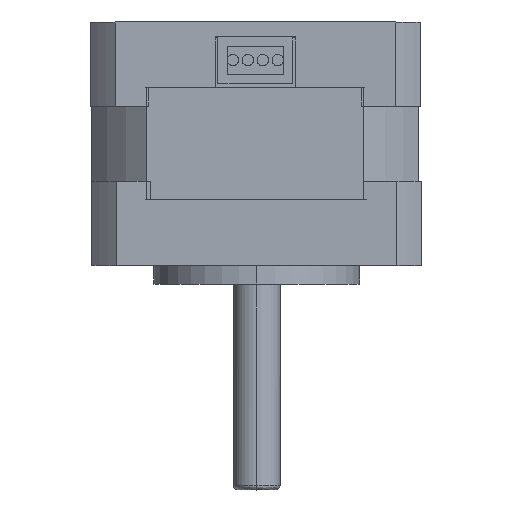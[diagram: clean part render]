
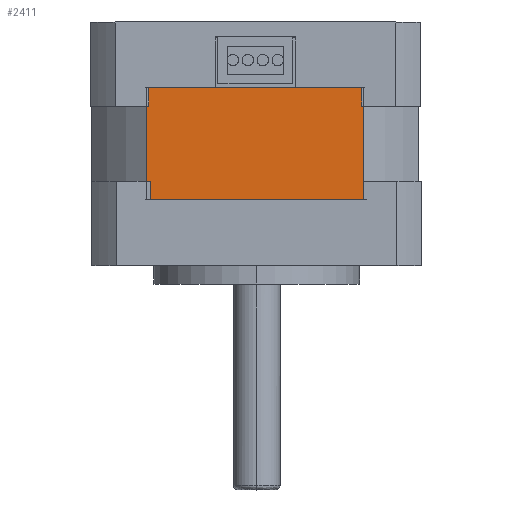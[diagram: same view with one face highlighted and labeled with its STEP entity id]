
A CAD part, top view. The second image highlights one B-rep face of the part: STEP entity #2411.
In plain terms, the highlighted planar face has unit normal (0, 0, 1).
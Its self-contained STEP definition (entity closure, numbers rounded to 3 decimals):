
#506 = EDGE_CURVE ( 'NONE', #4736, #3105, #5687, .T. ) ;
#693 = CARTESIAN_POINT ( 'NONE',  ( 0., 13., 17.5 ) ) ;
#743 = EDGE_CURVE ( 'NONE', #3370, #5370, #4755, .T. ) ;
#759 = EDGE_CURVE ( 'NONE', #3105, #3370, #4760, .T. ) ;
#1214 = DIRECTION ( 'NONE',  ( 0., 1., 0. ) ) ;
#1681 = CARTESIAN_POINT ( 'NONE',  ( -11.608, 0., 17.5 ) ) ;
#1706 = DIRECTION ( 'NONE',  ( 1., 0., 0. ) ) ;
#2090 = LINE ( 'NONE', #2331, #3391 ) ;
#2277 = CARTESIAN_POINT ( 'NONE',  ( 11.608, 1., 17.5 ) ) ;
#2331 = CARTESIAN_POINT ( 'NONE',  ( 11.608, 0., 17.5 ) ) ;
#2352 = ORIENTED_EDGE ( 'NONE', *, *, #3418, .F. ) ;
#2411 = ADVANCED_FACE ( 'NONE', ( #5651 ), #3044, .F. ) ;
#2941 = EDGE_LOOP ( 'NONE', ( #3926, #2352, #4488, #4928 ) ) ;
#2970 = DIRECTION ( 'NONE',  ( -1., 0., 0. ) ) ;
#3018 = DIRECTION ( 'NONE',  ( 0., 0., -1. ) ) ;
#3044 = PLANE ( 'NONE',  #3497 ) ;
#3105 = VERTEX_POINT ( 'NONE', #6513 ) ;
#3370 = VERTEX_POINT ( 'NONE', #3880 ) ;
#3391 = VECTOR ( 'NONE', #5067, 1000. ) ;
#3418 = EDGE_CURVE ( 'NONE', #5370, #4736, #2090, .T. ) ;
#3497 = AXIS2_PLACEMENT_3D ( 'NONE', #5611, #3018, #2970 ) ;
#3880 = CARTESIAN_POINT ( 'NONE',  ( -11.608, 13., 17.5 ) ) ;
#3926 = ORIENTED_EDGE ( 'NONE', *, *, #506, .F. ) ;
#4488 = ORIENTED_EDGE ( 'NONE', *, *, #743, .F. ) ;
#4590 = VECTOR ( 'NONE', #1214, 1000. ) ;
#4736 = VERTEX_POINT ( 'NONE', #2277 ) ;
#4755 = LINE ( 'NONE', #693, #4849 ) ;
#4760 = LINE ( 'NONE', #1681, #4590 ) ;
#4849 = VECTOR ( 'NONE', #1706, 1000. ) ;
#4890 = DIRECTION ( 'NONE',  ( -1., 0., 0. ) ) ;
#4928 = ORIENTED_EDGE ( 'NONE', *, *, #759, .F. ) ;
#4997 = CARTESIAN_POINT ( 'NONE',  ( -17.5, 1., 17.5 ) ) ;
#5067 = DIRECTION ( 'NONE',  ( 0., -1., 0. ) ) ;
#5370 = VERTEX_POINT ( 'NONE', #6533 ) ;
#5611 = CARTESIAN_POINT ( 'NONE',  ( -17.5, 13., 17.5 ) ) ;
#5651 = FACE_OUTER_BOUND ( 'NONE', #2941, .T. ) ;
#5687 = LINE ( 'NONE', #4997, #5776 ) ;
#5776 = VECTOR ( 'NONE', #4890, 1000. ) ;
#6513 = CARTESIAN_POINT ( 'NONE',  ( -11.608, 1., 17.5 ) ) ;
#6533 = CARTESIAN_POINT ( 'NONE',  ( 11.608, 13., 17.5 ) ) ;
